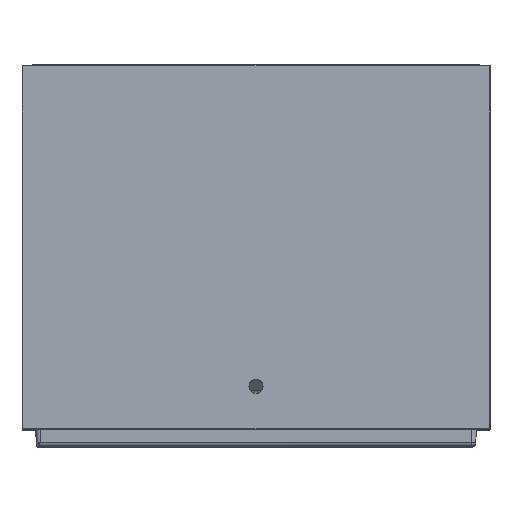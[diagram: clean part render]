
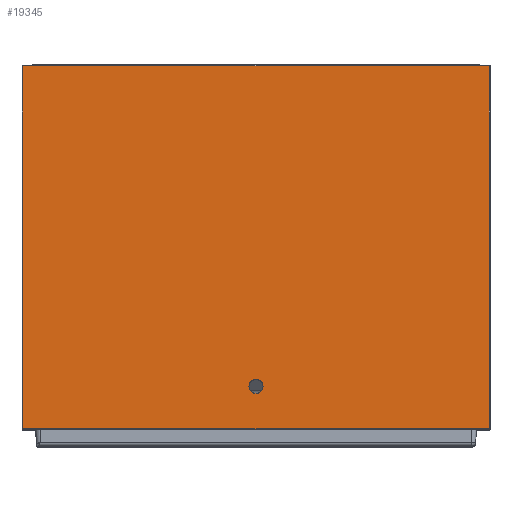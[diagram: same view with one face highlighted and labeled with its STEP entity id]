
A CAD part, top view. The second image highlights one B-rep face of the part: STEP entity #19345.
In plain terms, the highlighted planar face has unit normal (0, 0, 1).
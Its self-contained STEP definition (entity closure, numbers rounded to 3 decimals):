
#439=CARTESIAN_POINT('',(0.,10.,54.65));
#440=DIRECTION('',(0.,0.,-1.));
#441=DIRECTION('',(1.,0.,0.));
#442=AXIS2_PLACEMENT_3D('',#439,#440,#441);
#444=CARTESIAN_POINT('',(0.,10.,54.65));
#445=DIRECTION('',(0.,0.,-1.));
#446=DIRECTION('',(-1.,0.,0.));
#447=AXIS2_PLACEMENT_3D('',#444,#445,#446);
#449=DIRECTION('',(0.,-1.,0.));
#450=VECTOR('',#449,84.7);
#451=CARTESIAN_POINT('',(54.5,84.85,54.65));
#452=LINE('',#451,#450);
#453=DIRECTION('',(-1.,0.,0.));
#454=VECTOR('',#453,109.);
#455=CARTESIAN_POINT('',(54.5,0.15,54.65));
#456=LINE('',#455,#454);
#457=DIRECTION('',(0.,-1.,0.));
#458=VECTOR('',#457,84.7);
#459=CARTESIAN_POINT('',(-54.5,84.85,54.65));
#460=LINE('',#459,#458);
#461=DIRECTION('',(1.,0.,0.));
#462=VECTOR('',#461,109.);
#463=CARTESIAN_POINT('',(-54.5,84.85,54.65));
#464=LINE('',#463,#462);
#16985=CARTESIAN_POINT('',(1.65,10.,54.65));
#16986=CARTESIAN_POINT('',(-1.65,10.,54.65));
#16987=VERTEX_POINT('',#16985);
#16988=VERTEX_POINT('',#16986);
#17448=CARTESIAN_POINT('',(54.5,84.85,54.65));
#17449=CARTESIAN_POINT('',(54.5,0.15,54.65));
#17450=VERTEX_POINT('',#17448);
#17451=VERTEX_POINT('',#17449);
#17454=CARTESIAN_POINT('',(-54.5,84.85,54.65));
#17455=VERTEX_POINT('',#17454);
#17456=CARTESIAN_POINT('',(-54.5,0.15,54.65));
#17457=VERTEX_POINT('',#17456);
#19324=CARTESIAN_POINT('',(-54.65,0.,54.65));
#19325=DIRECTION('',(0.,0.,1.));
#19326=DIRECTION('',(1.,0.,0.));
#19327=AXIS2_PLACEMENT_3D('',#19324,#19325,#19326);
#19328=PLANE('',#19327);
#19330=ORIENTED_EDGE('',*,*,#19329,.T.);
#19332=ORIENTED_EDGE('',*,*,#19331,.T.);
#19334=ORIENTED_EDGE('',*,*,#19333,.F.);
#19336=ORIENTED_EDGE('',*,*,#19335,.T.);
#19337=EDGE_LOOP('',(#19330,#19332,#19334,#19336));
#19338=FACE_OUTER_BOUND('',#19337,.F.);
#19340=ORIENTED_EDGE('',*,*,#19339,.F.);
#19342=ORIENTED_EDGE('',*,*,#19341,.F.);
#19343=EDGE_LOOP('',(#19340,#19342));
#19344=FACE_BOUND('',#19343,.F.);
#443=CIRCLE('',#442,1.65);
#448=CIRCLE('',#447,1.65);
#19329=EDGE_CURVE('',#17450,#17451,#452,.T.);
#19331=EDGE_CURVE('',#17451,#17457,#456,.T.);
#19333=EDGE_CURVE('',#17455,#17457,#460,.T.);
#19335=EDGE_CURVE('',#17455,#17450,#464,.T.);
#19339=EDGE_CURVE('',#16987,#16988,#443,.T.);
#19341=EDGE_CURVE('',#16988,#16987,#448,.T.);
#19345=ADVANCED_FACE('',(#19338,#19344),#19328,.T.);
